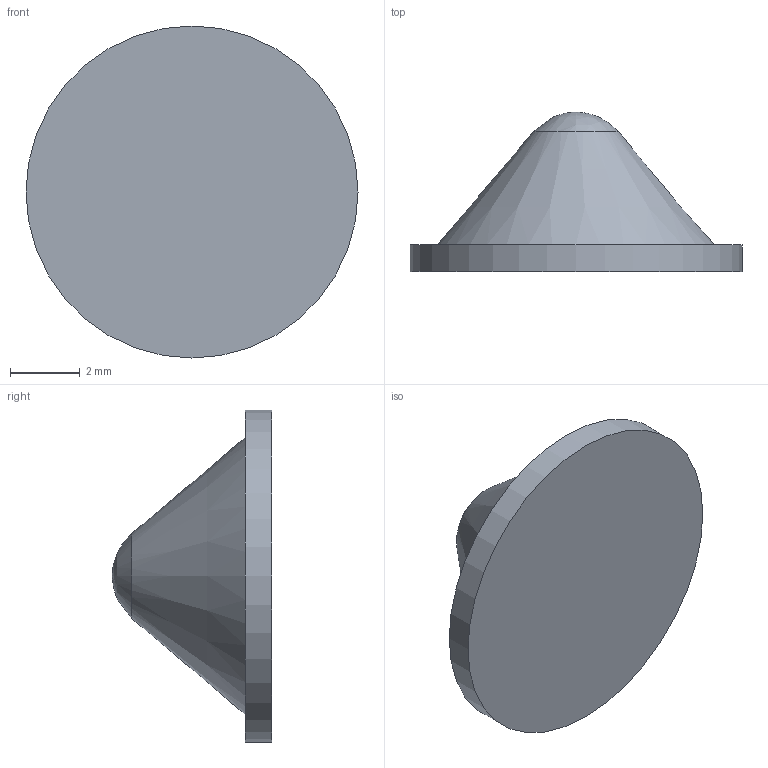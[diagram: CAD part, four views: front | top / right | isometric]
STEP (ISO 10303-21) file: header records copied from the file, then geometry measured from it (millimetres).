
FILE_DESCRIPTION(/* description */ (''),/* implementation_level */ '2;1');
FILE_NAME(/* name */ 'C:/Users/Mark/Downloads/STEP Files/BS67.step',/* time_stamp */ '2020-02-10T13:08:48-05:00',/* author */ (''),/* organization */ (''),/* preprocessor_version */ 'ST-DEVELOPER v18',/* originating_system */ 'Autodesk Translation Framework v8.12.0.6',/* authorisation */ '');
FILE_SCHEMA (('AUTOMOTIVE_DESIGN { 1 0 10303 214 3 1 1 }'));
Length unit declared in the file: inch
Products named in the file (1): BS67
Bounding box: 9.53 x 4.57 x 9.53 mm (x, y, z)
Volume: 131.1 mm3; surface area: 190.9 mm2
Topology: 1 solids, 1 shells, 5 faces, 13 edges, 10 vertices
Faces by surface type: plane 2, bspline 1, cone 1, cylinder 1
Full cylindrical faces by diameter (mm): 9.525 x1
Entity records: 221 total; most frequent: CARTESIAN_POINT 54, DIRECTION 32, ORIENTED_EDGE 24, AXIS2_PLACEMENT_3D 15, EDGE_CURVE 12, CIRCLE 10, VERTEX_POINT 10, EDGE_LOOP 6
